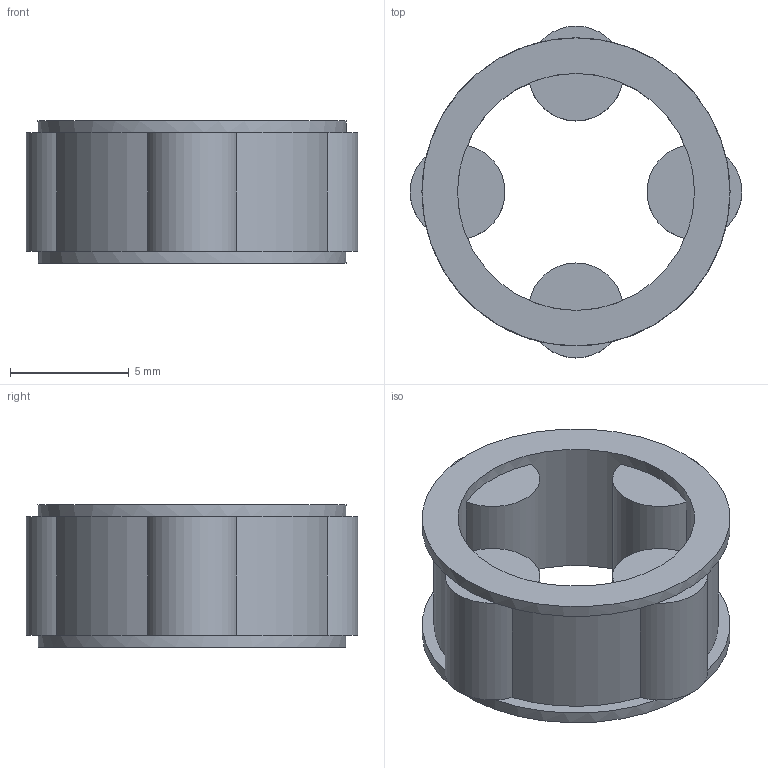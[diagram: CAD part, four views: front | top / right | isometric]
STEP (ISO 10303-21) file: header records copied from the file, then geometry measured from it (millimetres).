
FILE_DESCRIPTION(/* description */ (''),/* implementation_level */ '2;1');
FILE_NAME(/* name */ '303131 RL 414 - 4.stp',/* time_stamp */ '2016-11-10T14:33:30+01:00',/* author */ (''),/* organization */ (''),/* preprocessor_version */ 'ST-DEVELOPER v15',/* originating_system */ 'SIEMENS PLM Software NX 8.5',/* authorisation */ '');
FILE_SCHEMA (('CONFIG_CONTROL_DESIGN'));
Length unit declared in the file: millimetre
Products named in the file (1): ATE0000098_01
Bounding box: 14 x 14 x 6 mm (x, y, z)
Volume: 397.7 mm3; surface area: 655.8 mm2
Topology: 1 solids, 1 shells, 41 faces, 92 edges, 56 vertices
Faces by surface type: plane 26, cylinder 15
Full cylindrical faces by diameter (mm): 10 x1, 13 x2
Entity records: 1198 total; most frequent: DIRECTION 236, CARTESIAN_POINT 178, ORIENTED_EDGE 168, AXIS2_PLACEMENT_3D 110, EDGE_CURVE 84, CIRCLE 68, VERTEX_POINT 52, EDGE_LOOP 50
